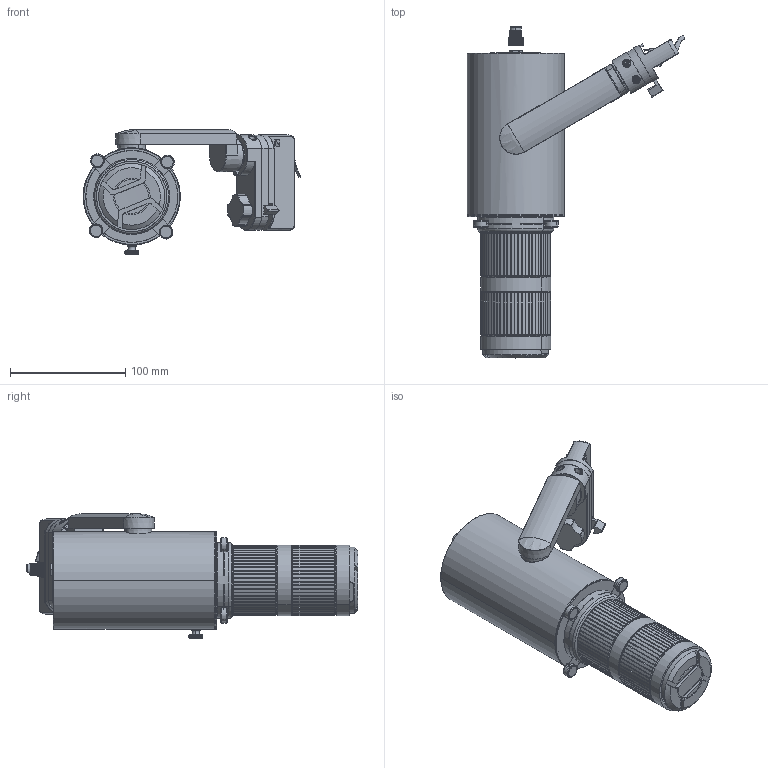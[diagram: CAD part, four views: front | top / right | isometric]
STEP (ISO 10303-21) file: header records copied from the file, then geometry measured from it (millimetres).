
FILE_DESCRIPTION((''),'2;1');
FILE_NAME('SHOWGUN-35-SPOT_ASM','2025-03-27T09:26:52',('ALY'),(''),'CREO PARAMETRIC BY PTC INC, 2022164','CREO PARAMETRIC BY PTC INC, 2022164','');
FILE_SCHEMA(('AUTOMOTIVE_DESIGN { 1 0 10303 214 1 1 1 1 }'));
Length unit declared in the file: millimetre
Products named in the file (32): 00; 0003; 0005; M10-0001; 000; 0008; 0009; D150001; 0010; 0011; M3X8-0001; 000_ASM; 10001; D11X0-500; 0013; 20001; GB834-M4X20; SHOWGUN-SPOT-30W00_ASM; 300; 400; __10001; 2_1_00; 200; 2_2_00; 2_3_00; 500; 2540-29217_ASM; _X2_656370ED5668_X0__ASM; _X2_96F64EF6_X0_4; 254000_ASM; SHOWGUN-35-SPOT_ASM
Assembly tree (34 placements, depth 4):
  SHOWGUN-35-SPOT_ASM
    SHOWGUN-SPOT-30W00_ASM
      00
      0003
      00
      0005
      M10-0001
      000_ASM
        000
        0008
        0005
        0009
        D150001
        0010
        0011
        M3X8-0001
      10001
      D11X0-500
      0013
      20001
      M3X8-0001  x2
      GB834-M4X20
    254000_ASM
      2540-29217_ASM
        300
        400
        __10001
        2_1_00
        200
        2_2_00
        2_3_00
        500
      _X2_656370ED5668_X0__ASM
      _X2_96F64EF6_X0_4
Bounding box: 189.2 x 288.35 x 108.22 mm (x, y, z)
Volume: 561099.5 mm3; surface area: 297253.2 mm2
Topology: 31 solids, 31 shells, 3479 faces, 9771 edges, 6390 vertices
Faces by surface type: plane 1658, cylinder 746, cone 686, bspline 202, torus 138, sphere 49
Entity records: 183778 total; most frequent: CARTESIAN_POINT 63178, ORIENTED_EDGE 18884, DIRECTION 16617, EDGE_CURVE 9442, VERTEX_POINT 6198, AXIS2_PLACEMENT_3D 5543, VECTOR 5531, LINE 5531
